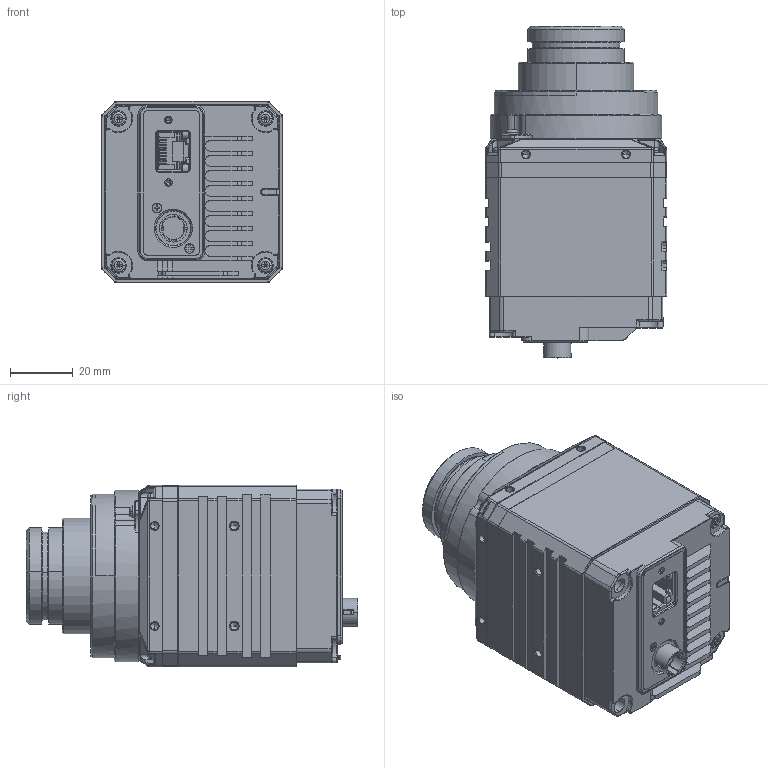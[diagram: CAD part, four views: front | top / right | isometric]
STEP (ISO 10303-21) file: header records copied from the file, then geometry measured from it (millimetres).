
FILE_DESCRIPTION((''),'2;1');
FILE_NAME('7_ASM','2021-06-04T14:07:04',('gengdawei'),(''),'CREO PARAMETRIC BY PTC INC, 2017260','CREO PARAMETRIC BY PTC INC, 2017260','');
FILE_SCHEMA(('CONFIG_CONTROL_DESIGN'));
Products named in the file (3): MSBR-1; _7; 7_ASM
Assembly tree (2 placements, depth 2):
  7_ASM
    MSBR-1
    _7
Bounding box: 58 x 106.15 x 58 mm (x, y, z)
Volume: 259528.3 mm3; surface area: 50172.8 mm2
Topology: 3 solids, 25 shells, 2720 faces, 7341 edges, 4713 vertices
Faces by surface type: plane 1417, cylinder 894, cone 263, bspline 92, torus 46, sphere 8
Entity records: 98979 total; most frequent: CARTESIAN_POINT 30858, ORIENTED_EDGE 14570, DIRECTION 13857, EDGE_CURVE 7285, VERTEX_POINT 4713, AXIS2_PLACEMENT_3D 4700, VECTOR 4457, LINE 4457
